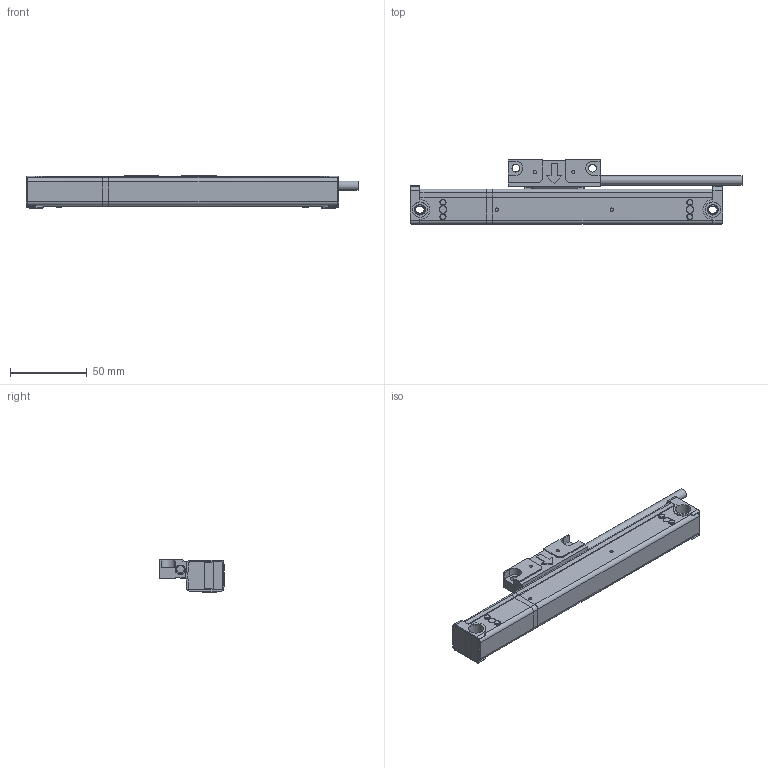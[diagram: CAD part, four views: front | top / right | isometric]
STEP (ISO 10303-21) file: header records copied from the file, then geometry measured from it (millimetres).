
FILE_DESCRIPTION( ( 'STEP AP203' ), '1' );
FILE_NAME( 'N:/Engineering/CAD_Solid/Magnescale/GBER/GB-010ER_SR138-010R.stp', '2013-03-14T10:08:56', ( ' ' ), ( ' ' ), 'XStep 1.0', ' ', ' ' );
FILE_SCHEMA( ( 'CONFIG_CONTROL_DESIGN) ( )' ) );
Length unit declared in the file: metre
Products named in the file (1): 1
Bounding box: 216.5 x 42 x 21 mm (x, y, z)
Surface area: 28185.3 mm2 (no closed solid volume)
Topology: 0 solids, 328 shells, 328 faces, 1768 edges, 1731 vertices
Faces by surface type: plane 212, cylinder 94, torus 12, cone 9, extrusion 1
Full cylindrical faces by diameter (mm): 2.013 x2, 2.113 x2, 3.242 x2, 4 x8, 4.8 x1, 5 x2, 5.8 x2, 6 x1, 9.8 x2, 10 x2
Entity records: 17143 total; most frequent: CARTESIAN_POINT 3841, DIRECTION 2862, ORIENTED_EDGE 1718, EDGE_CURVE 1718, VERTEX_POINT 1718, VECTOR 1224, LINE 1223, AXIS2_PLACEMENT_3D 819
